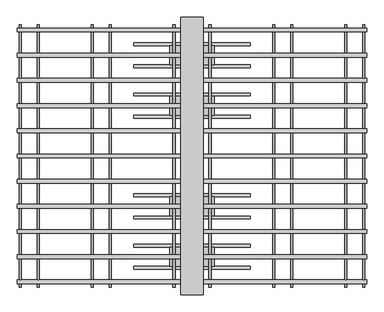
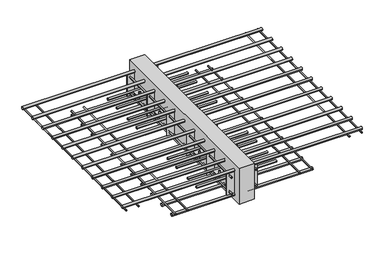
"""IFC4 building model written with IfcOpenShell, lengths in millimetres: proxy geometry, ACINOXplus_Typenreihe_K : KH+ S4."""

from ifc_helpers import new_model, si_unit, point, frame, frame_2d, origin, place, context, project, spatial, polyline, circle_curve, trimmed, segment, composite_curve, outline, extrude, source, transform, mapped, element, save
from ifc_brep_helpers import plane_surface, cylinder_surface, advanced_brep


def generic_models_9a2259de(model_context):
    return source(origin(), model_context, "Body", "SolidModel", [
        extrude(outline(composite_curve([segment(trimmed(circle_curve(frame_2d((-403.6363636, -104.0)), 5.0), [point((-408.6363636, -104.0))], [point((-398.6363636, -104.0))], False, "CARTESIAN"), True, "CONTINUOUS"), segment(trimmed(circle_curve(frame_2d((-403.6363636, -104.0)), 5.0), [point((-398.6363636, -104.0))], [point((-408.6363636, -104.0))], False, "CARTESIAN"), True, "CONTINUOUS")], self_intersect=False)), frame((-210.0, 0.0, 0.0), z_axis=(1.0, 0.0, 0.0), x_axis=(0.0, 1.0, 0.0)), (0.0, 0.0, 1.0), 420.0),
        extrude(outline(composite_curve([segment(trimmed(circle_curve(frame_2d((-323.6363636, -104.0)), 5.0), [point((-328.6363636, -104.0))], [point((-318.6363636, -104.0))], False, "CARTESIAN"), True, "CONTINUOUS"), segment(trimmed(circle_curve(frame_2d((-323.6363636, -104.0)), 5.0), [point((-318.6363636, -104.0))], [point((-328.6363636, -104.0))], False, "CARTESIAN"), True, "CONTINUOUS")], self_intersect=False)), frame((-210.0, 0.0, 0.0), z_axis=(1.0, 0.0, 0.0), x_axis=(0.0, 1.0, 0.0)), (0.0, 0.0, 1.0), 420.0),
        advanced_brep(
        [(-69.0, -363.6363636, -89.0), (-61.0, -363.6363636, -89.0), (61.0, -363.6363636, -89.0), (69.0, -363.6363636, -89.0), (-69.0, -363.6363636, -119.0), (-61.0, -363.6363636, -119.0), (61.0, -363.6363636, -119.0), (69.0, -363.6363636, -119.0), (-69.0, -363.6363636, -102.5), (-61.0, -363.6363636, -102.5), (-61.0, -363.6363636, -105.5), (-69.0, -363.6363636, -105.5), (61.0, -363.6363636, -102.5), (69.0, -363.6363636, -102.5), (69.0, -363.6363636, -105.5), (61.0, -363.6363636, -105.5), (80.0, -328.6363636, -102.5), (-80.0, -328.6363636, -102.5), (-80.0, -398.6363636, -102.5), (80.0, -398.6363636, -102.5), (80.0, -328.6363636, -105.5), (80.0, -398.6363636, -105.5), (-80.0, -398.6363636, -105.5), (-80.0, -328.6363636, -105.5)],
        [
            (0, 1, circle_curve(frame((-65.0, -363.6363636, -89.0), z_axis=(0.0, 0.0, 1.0), x_axis=(1.0, 0.0, 0.0)), 4.0)),
            (1, 0, circle_curve(frame((-65.0, -363.6363636, -89.0), z_axis=(0.0, 0.0, 1.0), x_axis=(1.0, 0.0, 0.0)), 4.0)),
            (2, 3, circle_curve(frame((65.0, -363.6363636, -89.0), z_axis=(0.0, 0.0, 1.0), x_axis=(1.0, 0.0, 0.0)), 4.0)),
            (3, 2, circle_curve(frame((65.0, -363.6363636, -89.0), z_axis=(0.0, 0.0, 1.0), x_axis=(1.0, 0.0, 0.0)), 4.0)),
            (4, 5, circle_curve(frame((-65.0, -363.6363636, -119.0), z_axis=(0.0, 0.0, -1.0), x_axis=(1.0, 0.0, 0.0)), 4.0)),
            (5, 4, circle_curve(frame((-65.0, -363.6363636, -119.0), z_axis=(0.0, 0.0, -1.0), x_axis=(1.0, 0.0, 0.0)), 4.0)),
            (6, 7, circle_curve(frame((65.0, -363.6363636, -119.0), z_axis=(0.0, 0.0, -1.0), x_axis=(1.0, 0.0, 0.0)), 4.0)),
            (7, 6, circle_curve(frame((65.0, -363.6363636, -119.0), z_axis=(0.0, 0.0, -1.0), x_axis=(1.0, 0.0, 0.0)), 4.0)),
            (0, 8),
            (8, 9, circle_curve(frame((-65.0, -363.6363636, -102.5), z_axis=(0.0, 0.0, 1.0), x_axis=(1.0, 0.0, 0.0)), 4.0)),
            (9, 1),
            (5, 10),
            (10, 11, circle_curve(frame((-65.0, -363.6363636, -105.5), z_axis=(0.0, 0.0, -1.0), x_axis=(1.0, 0.0, 0.0)), 4.0)),
            (11, 4),
            (9, 8, circle_curve(frame((-65.0, -363.6363636, -102.5), z_axis=(0.0, 0.0, 1.0), x_axis=(1.0, 0.0, 0.0)), 4.0)),
            (11, 10, circle_curve(frame((-65.0, -363.6363636, -105.5), z_axis=(0.0, 0.0, -1.0), x_axis=(1.0, 0.0, 0.0)), 4.0)),
            (2, 12),
            (12, 13, circle_curve(frame((65.0, -363.6363636, -102.5), z_axis=(0.0, 0.0, 1.0), x_axis=(1.0, 0.0, 0.0)), 4.0)),
            (13, 3),
            (7, 14),
            (14, 15, circle_curve(frame((65.0, -363.6363636, -105.5), z_axis=(0.0, 0.0, -1.0), x_axis=(1.0, 0.0, 0.0)), 4.0)),
            (15, 6),
            (13, 12, circle_curve(frame((65.0, -363.6363636, -102.5), z_axis=(0.0, 0.0, 1.0), x_axis=(1.0, 0.0, 0.0)), 4.0)),
            (15, 14, circle_curve(frame((65.0, -363.6363636, -105.5), z_axis=(0.0, 0.0, -1.0), x_axis=(1.0, 0.0, 0.0)), 4.0)),
            (16, 17),
            (17, 18),
            (18, 19),
            (19, 16),
            (20, 21),
            (21, 22),
            (22, 23),
            (23, 20),
            (16, 20),
            (23, 17),
            (22, 18),
            (21, 19),
        ],
        [
            plane_surface(frame((-61.0, -363.6363636, -89.0), z_axis=(0.0, 0.0, 1.0), x_axis=(0.0, 1.0, 0.0))),
            plane_surface(frame((-61.0, -363.6363636, -119.0), z_axis=(0.0, 0.0, -1.0), x_axis=(0.0, -1.0, 0.0))),
            cylinder_surface(frame((-65.0, -363.6363636, -119.0), z_axis=(0.0, 0.0, 1.0), x_axis=(1.0, 0.0, 0.0)), 4.0),
            cylinder_surface(frame((65.0, -363.6363636, -104.0), z_axis=(0.0, 0.0, 1.0), x_axis=(1.0, 0.0, 0.0)), 4.0),
            plane_surface(frame((-80.0, -328.6363636, -102.5), z_axis=(0.0, 0.0, 1.0), x_axis=(-1.0, 0.0, 0.0))),
            plane_surface(frame((-80.0, -328.6363636, -105.5), z_axis=(0.0, 0.0, -1.0), x_axis=(1.0, 0.0, 0.0))),
            plane_surface(frame((80.0, -328.6363636, -102.5), z_axis=(0.0, 1.0, 0.0), x_axis=(0.0, 0.0, -1.0))),
            plane_surface(frame((-80.0, -328.6363636, -102.5), z_axis=(-1.0, 0.0, 0.0), x_axis=(0.0, 0.0, -1.0))),
            plane_surface(frame((-80.0, -398.6363636, -102.5), z_axis=(0.0, -1.0, 0.0), x_axis=(0.0, 0.0, -1.0))),
            plane_surface(frame((80.0, -398.6363636, -102.5), z_axis=(1.0, 0.0, 0.0), x_axis=(0.0, 0.0, -1.0))),
        ],
        [
            (0, [[1, 2]]),
            (0, [[3, 4]]),
            (1, [[5, 6]]),
            (1, [[7, 8]]),
            (2, [[-1, 9, 10, 11]]),
            (2, [[-6, 12, 13, 14]]),
            (2, [[-2, -11, 15, -9]]),
            (2, [[-5, -14, 16, -12]]),
            (3, [[-3, 17, 18, 19]]),
            (3, [[-8, 20, 21, 22]]),
            (3, [[-4, -19, 23, -17]]),
            (3, [[-7, -22, 24, -20]]),
            (4, [[25, 26, 27, 28], [-10, -15], [-18, -23]]),
            (5, [[29, 30, 31, 32], [-13, -16], [-21, -24]]),
            (6, [[-25, 33, -32, 34]]),
            (7, [[-26, -34, -31, 35]]),
            (8, [[-27, -35, -30, 36]]),
            (9, [[-28, -36, -29, -33]]),
        ],
    ),
        extrude(outline(composite_curve([segment(trimmed(circle_curve(frame_2d((323.6363636, -104.0)), 5.0), [point((318.6363636, -104.0))], [point((328.6363636, -104.0))], False, "CARTESIAN"), True, "CONTINUOUS"), segment(trimmed(circle_curve(frame_2d((323.6363636, -104.0)), 5.0), [point((328.6363636, -104.0))], [point((318.6363636, -104.0))], False, "CARTESIAN"), True, "CONTINUOUS")], self_intersect=False)), frame((-210.0, 0.0, 0.0), z_axis=(1.0, 0.0, 0.0), x_axis=(0.0, 1.0, 0.0)), (0.0, 0.0, 1.0), 420.0),
        extrude(outline(composite_curve([segment(trimmed(circle_curve(frame_2d((403.6363636, -104.0)), 5.0), [point((398.6363636, -104.0))], [point((408.6363636, -104.0))], False, "CARTESIAN"), True, "CONTINUOUS"), segment(trimmed(circle_curve(frame_2d((403.6363636, -104.0)), 5.0), [point((408.6363636, -104.0))], [point((398.6363636, -104.0))], False, "CARTESIAN"), True, "CONTINUOUS")], self_intersect=False)), frame((-210.0, 0.0, 0.0), z_axis=(1.0, 0.0, 0.0), x_axis=(0.0, 1.0, 0.0)), (0.0, 0.0, 1.0), 420.0),
        advanced_brep(
        [(-69.0, 363.6363636, -89.0), (-61.0, 363.6363636, -89.0), (61.0, 363.6363636, -89.0), (69.0, 363.6363636, -89.0), (-69.0, 363.6363636, -119.0), (-61.0, 363.6363636, -119.0), (61.0, 363.6363636, -119.0), (69.0, 363.6363636, -119.0), (-69.0, 363.6363636, -102.5), (-61.0, 363.6363636, -102.5), (-61.0, 363.6363636, -105.5), (-69.0, 363.6363636, -105.5), (61.0, 363.6363636, -102.5), (69.0, 363.6363636, -102.5), (69.0, 363.6363636, -105.5), (61.0, 363.6363636, -105.5), (80.0, 398.6363636, -102.5), (-80.0, 398.6363636, -102.5), (-80.0, 328.6363636, -102.5), (80.0, 328.6363636, -102.5), (80.0, 398.6363636, -105.5), (80.0, 328.6363636, -105.5), (-80.0, 328.6363636, -105.5), (-80.0, 398.6363636, -105.5)],
        [
            (0, 1, circle_curve(frame((-65.0, 363.6363636, -89.0), z_axis=(0.0, 0.0, 1.0), x_axis=(1.0, 0.0, 0.0)), 4.0)),
            (1, 0, circle_curve(frame((-65.0, 363.6363636, -89.0), z_axis=(0.0, 0.0, 1.0), x_axis=(1.0, 0.0, 0.0)), 4.0)),
            (2, 3, circle_curve(frame((65.0, 363.6363636, -89.0), z_axis=(0.0, 0.0, 1.0), x_axis=(1.0, 0.0, 0.0)), 4.0)),
            (3, 2, circle_curve(frame((65.0, 363.6363636, -89.0), z_axis=(0.0, 0.0, 1.0), x_axis=(1.0, 0.0, 0.0)), 4.0)),
            (4, 5, circle_curve(frame((-65.0, 363.6363636, -119.0), z_axis=(0.0, 0.0, -1.0), x_axis=(1.0, 0.0, 0.0)), 4.0)),
            (5, 4, circle_curve(frame((-65.0, 363.6363636, -119.0), z_axis=(0.0, 0.0, -1.0), x_axis=(1.0, 0.0, 0.0)), 4.0)),
            (6, 7, circle_curve(frame((65.0, 363.6363636, -119.0), z_axis=(0.0, 0.0, -1.0), x_axis=(1.0, 0.0, 0.0)), 4.0)),
            (7, 6, circle_curve(frame((65.0, 363.6363636, -119.0), z_axis=(0.0, 0.0, -1.0), x_axis=(1.0, 0.0, 0.0)), 4.0)),
            (0, 8),
            (8, 9, circle_curve(frame((-65.0, 363.6363636, -102.5), z_axis=(0.0, 0.0, 1.0), x_axis=(1.0, 0.0, 0.0)), 4.0)),
            (9, 1),
            (5, 10),
            (10, 11, circle_curve(frame((-65.0, 363.6363636, -105.5), z_axis=(0.0, 0.0, -1.0), x_axis=(1.0, 0.0, 0.0)), 4.0)),
            (11, 4),
            (9, 8, circle_curve(frame((-65.0, 363.6363636, -102.5), z_axis=(0.0, 0.0, 1.0), x_axis=(1.0, 0.0, 0.0)), 4.0)),
            (11, 10, circle_curve(frame((-65.0, 363.6363636, -105.5), z_axis=(0.0, 0.0, -1.0), x_axis=(1.0, 0.0, 0.0)), 4.0)),
            (2, 12),
            (12, 13, circle_curve(frame((65.0, 363.6363636, -102.5), z_axis=(0.0, 0.0, 1.0), x_axis=(1.0, 0.0, 0.0)), 4.0)),
            (13, 3),
            (7, 14),
            (14, 15, circle_curve(frame((65.0, 363.6363636, -105.5), z_axis=(0.0, 0.0, -1.0), x_axis=(1.0, 0.0, 0.0)), 4.0)),
            (15, 6),
            (13, 12, circle_curve(frame((65.0, 363.6363636, -102.5), z_axis=(0.0, 0.0, 1.0), x_axis=(1.0, 0.0, 0.0)), 4.0)),
            (15, 14, circle_curve(frame((65.0, 363.6363636, -105.5), z_axis=(0.0, 0.0, -1.0), x_axis=(1.0, 0.0, 0.0)), 4.0)),
            (16, 17),
            (17, 18),
            (18, 19),
            (19, 16),
            (20, 21),
            (21, 22),
            (22, 23),
            (23, 20),
            (16, 20),
            (23, 17),
            (22, 18),
            (21, 19),
        ],
        [
            plane_surface(frame((-61.0, 363.6363636, -89.0), z_axis=(0.0, 0.0, 1.0), x_axis=(0.0, 1.0, 0.0))),
            plane_surface(frame((-61.0, 363.6363636, -119.0), z_axis=(0.0, 0.0, -1.0), x_axis=(0.0, -1.0, 0.0))),
            cylinder_surface(frame((-65.0, 363.6363636, -119.0), z_axis=(0.0, 0.0, 1.0), x_axis=(1.0, 0.0, 0.0)), 4.0),
            cylinder_surface(frame((65.0, 363.6363636, -104.0), z_axis=(0.0, 0.0, 1.0), x_axis=(1.0, 0.0, 0.0)), 4.0),
            plane_surface(frame((-80.0, 398.6363636, -102.5), z_axis=(0.0, 0.0, 1.0), x_axis=(-1.0, 0.0, 0.0))),
            plane_surface(frame((-80.0, 398.6363636, -105.5), z_axis=(0.0, 0.0, -1.0), x_axis=(1.0, 0.0, 0.0))),
            plane_surface(frame((80.0, 398.6363636, -102.5), z_axis=(0.0, 1.0, 0.0), x_axis=(0.0, 0.0, -1.0))),
            plane_surface(frame((-80.0, 398.6363636, -102.5), z_axis=(-1.0, 0.0, 0.0), x_axis=(0.0, 0.0, -1.0))),
            plane_surface(frame((-80.0, 328.6363636, -102.5), z_axis=(0.0, -1.0, 0.0), x_axis=(0.0, 0.0, -1.0))),
            plane_surface(frame((80.0, 328.6363636, -102.5), z_axis=(1.0, 0.0, 0.0), x_axis=(0.0, 0.0, -1.0))),
        ],
        [
            (0, [[1, 2]]),
            (0, [[3, 4]]),
            (1, [[5, 6]]),
            (1, [[7, 8]]),
            (2, [[-1, 9, 10, 11]]),
            (2, [[-6, 12, 13, 14]]),
            (2, [[-2, -11, 15, -9]]),
            (2, [[-5, -14, 16, -12]]),
            (3, [[-3, 17, 18, 19]]),
            (3, [[-8, 20, 21, 22]]),
            (3, [[-4, -19, 23, -17]]),
            (3, [[-7, -22, 24, -20]]),
            (4, [[25, 26, 27, 28], [-10, -15], [-18, -23]]),
            (5, [[29, 30, 31, 32], [-13, -16], [-21, -24]]),
            (6, [[-25, 33, -32, 34]]),
            (7, [[-26, -34, -31, 35]]),
            (8, [[-27, -35, -30, 36]]),
            (9, [[-28, -36, -29, -33]]),
        ],
    ),
        extrude(outline(composite_curve([segment(trimmed(circle_curve(frame_2d((-221.8181818, -104.0)), 5.0), [point((-226.8181818, -104.0))], [point((-216.8181818, -104.0))], False, "CARTESIAN"), True, "CONTINUOUS"), segment(trimmed(circle_curve(frame_2d((-221.8181818, -104.0)), 5.0), [point((-216.8181818, -104.0))], [point((-226.8181818, -104.0))], False, "CARTESIAN"), True, "CONTINUOUS")], self_intersect=False)), frame((-210.0, 0.0, 0.0), z_axis=(1.0, 0.0, 0.0), x_axis=(0.0, 1.0, 0.0)), (0.0, 0.0, 1.0), 420.0),
        extrude(outline(composite_curve([segment(trimmed(circle_curve(frame_2d((-141.8181818, -104.0)), 5.0), [point((-146.8181818, -104.0))], [point((-136.8181818, -104.0))], False, "CARTESIAN"), True, "CONTINUOUS"), segment(trimmed(circle_curve(frame_2d((-141.8181818, -104.0)), 5.0), [point((-136.8181818, -104.0))], [point((-146.8181818, -104.0))], False, "CARTESIAN"), True, "CONTINUOUS")], self_intersect=False)), frame((-210.0, 0.0, 0.0), z_axis=(1.0, 0.0, 0.0), x_axis=(0.0, 1.0, 0.0)), (0.0, 0.0, 1.0), 420.0),
        advanced_brep(
        [(-69.0, -181.8181818, -89.0), (-61.0, -181.8181818, -89.0), (61.0, -181.8181818, -89.0), (69.0, -181.8181818, -89.0), (-69.0, -181.8181818, -119.0), (-61.0, -181.8181818, -119.0), (61.0, -181.8181818, -119.0), (69.0, -181.8181818, -119.0), (-69.0, -181.8181818, -102.5), (-61.0, -181.8181818, -102.5), (-61.0, -181.8181818, -105.5), (-69.0, -181.8181818, -105.5), (61.0, -181.8181818, -102.5), (69.0, -181.8181818, -102.5), (69.0, -181.8181818, -105.5), (61.0, -181.8181818, -105.5), (80.0, -146.8181818, -102.5), (-80.0, -146.8181818, -102.5), (-80.0, -216.8181818, -102.5), (80.0, -216.8181818, -102.5), (80.0, -146.8181818, -105.5), (80.0, -216.8181818, -105.5), (-80.0, -216.8181818, -105.5), (-80.0, -146.8181818, -105.5)],
        [
            (0, 1, circle_curve(frame((-65.0, -181.8181818, -89.0), z_axis=(0.0, 0.0, 1.0), x_axis=(1.0, 0.0, 0.0)), 4.0)),
            (1, 0, circle_curve(frame((-65.0, -181.8181818, -89.0), z_axis=(0.0, 0.0, 1.0), x_axis=(1.0, 0.0, 0.0)), 4.0)),
            (2, 3, circle_curve(frame((65.0, -181.8181818, -89.0), z_axis=(0.0, 0.0, 1.0), x_axis=(1.0, 0.0, 0.0)), 4.0)),
            (3, 2, circle_curve(frame((65.0, -181.8181818, -89.0), z_axis=(0.0, 0.0, 1.0), x_axis=(1.0, 0.0, 0.0)), 4.0)),
            (4, 5, circle_curve(frame((-65.0, -181.8181818, -119.0), z_axis=(0.0, 0.0, -1.0), x_axis=(1.0, 0.0, 0.0)), 4.0)),
            (5, 4, circle_curve(frame((-65.0, -181.8181818, -119.0), z_axis=(0.0, 0.0, -1.0), x_axis=(1.0, 0.0, 0.0)), 4.0)),
            (6, 7, circle_curve(frame((65.0, -181.8181818, -119.0), z_axis=(0.0, 0.0, -1.0), x_axis=(1.0, 0.0, 0.0)), 4.0)),
            (7, 6, circle_curve(frame((65.0, -181.8181818, -119.0), z_axis=(0.0, 0.0, -1.0), x_axis=(1.0, 0.0, 0.0)), 4.0)),
            (0, 8),
            (8, 9, circle_curve(frame((-65.0, -181.8181818, -102.5), z_axis=(0.0, 0.0, 1.0), x_axis=(1.0, 0.0, 0.0)), 4.0)),
            (9, 1),
            (5, 10),
            (10, 11, circle_curve(frame((-65.0, -181.8181818, -105.5), z_axis=(0.0, 0.0, -1.0), x_axis=(1.0, 0.0, 0.0)), 4.0)),
            (11, 4),
            (9, 8, circle_curve(frame((-65.0, -181.8181818, -102.5), z_axis=(0.0, 0.0, 1.0), x_axis=(1.0, 0.0, 0.0)), 4.0)),
            (11, 10, circle_curve(frame((-65.0, -181.8181818, -105.5), z_axis=(0.0, 0.0, -1.0), x_axis=(1.0, 0.0, 0.0)), 4.0)),
            (2, 12),
            (12, 13, circle_curve(frame((65.0, -181.8181818, -102.5), z_axis=(0.0, 0.0, 1.0), x_axis=(1.0, 0.0, 0.0)), 4.0)),
            (13, 3),
            (7, 14),
            (14, 15, circle_curve(frame((65.0, -181.8181818, -105.5), z_axis=(0.0, 0.0, -1.0), x_axis=(1.0, 0.0, 0.0)), 4.0)),
            (15, 6),
            (13, 12, circle_curve(frame((65.0, -181.8181818, -102.5), z_axis=(0.0, 0.0, 1.0), x_axis=(1.0, 0.0, 0.0)), 4.0)),
            (15, 14, circle_curve(frame((65.0, -181.8181818, -105.5), z_axis=(0.0, 0.0, -1.0), x_axis=(1.0, 0.0, 0.0)), 4.0)),
            (16, 17),
            (17, 18),
            (18, 19),
            (19, 16),
            (20, 21),
            (21, 22),
            (22, 23),
            (23, 20),
            (16, 20),
            (23, 17),
            (22, 18),
            (21, 19),
        ],
        [
            plane_surface(frame((-61.0, -181.8181818, -89.0), z_axis=(0.0, 0.0, 1.0), x_axis=(0.0, 1.0, 0.0))),
            plane_surface(frame((-61.0, -181.8181818, -119.0), z_axis=(0.0, 0.0, -1.0), x_axis=(0.0, -1.0, 0.0))),
            cylinder_surface(frame((-65.0, -181.8181818, -119.0), z_axis=(0.0, 0.0, 1.0), x_axis=(1.0, 0.0, 0.0)), 4.0),
            cylinder_surface(frame((65.0, -181.8181818, -104.0), z_axis=(0.0, 0.0, 1.0), x_axis=(1.0, 0.0, 0.0)), 4.0),
            plane_surface(frame((-80.0, -146.8181818, -102.5), z_axis=(0.0, 0.0, 1.0), x_axis=(-1.0, 0.0, 0.0))),
            plane_surface(frame((-80.0, -146.8181818, -105.5), z_axis=(0.0, 0.0, -1.0), x_axis=(1.0, 0.0, 0.0))),
            plane_surface(frame((80.0, -146.8181818, -102.5), z_axis=(0.0, 1.0, 0.0), x_axis=(0.0, 0.0, -1.0))),
            plane_surface(frame((-80.0, -146.8181818, -102.5), z_axis=(-1.0, 0.0, 0.0), x_axis=(0.0, 0.0, -1.0))),
            plane_surface(frame((-80.0, -216.8181818, -102.5), z_axis=(0.0, -1.0, 0.0), x_axis=(0.0, 0.0, -1.0))),
            plane_surface(frame((80.0, -216.8181818, -102.5), z_axis=(1.0, 0.0, 0.0), x_axis=(0.0, 0.0, -1.0))),
        ],
        [
            (0, [[1, 2]]),
            (0, [[3, 4]]),
            (1, [[5, 6]]),
            (1, [[7, 8]]),
            (2, [[-1, 9, 10, 11]]),
            (2, [[-6, 12, 13, 14]]),
            (2, [[-2, -11, 15, -9]]),
            (2, [[-5, -14, 16, -12]]),
            (3, [[-3, 17, 18, 19]]),
            (3, [[-8, 20, 21, 22]]),
            (3, [[-4, -19, 23, -17]]),
            (3, [[-7, -22, 24, -20]]),
            (4, [[25, 26, 27, 28], [-10, -15], [-18, -23]]),
            (5, [[29, 30, 31, 32], [-13, -16], [-21, -24]]),
            (6, [[-25, 33, -32, 34]]),
            (7, [[-26, -34, -31, 35]]),
            (8, [[-27, -35, -30, 36]]),
            (9, [[-28, -36, -29, -33]]),
        ],
    ),
        extrude(outline(composite_curve([segment(trimmed(circle_curve(frame_2d((141.8181818, -104.0)), 5.0), [point((136.8181818, -104.0))], [point((146.8181818, -104.0))], False, "CARTESIAN"), True, "CONTINUOUS"), segment(trimmed(circle_curve(frame_2d((141.8181818, -104.0)), 5.0), [point((146.8181818, -104.0))], [point((136.8181818, -104.0))], False, "CARTESIAN"), True, "CONTINUOUS")], self_intersect=False)), frame((-210.0, 0.0, 0.0), z_axis=(1.0, 0.0, 0.0), x_axis=(0.0, 1.0, 0.0)), (0.0, 0.0, 1.0), 420.0),
        extrude(outline(composite_curve([segment(trimmed(circle_curve(frame_2d((221.8181818, -104.0)), 5.0), [point((216.8181818, -104.0))], [point((226.8181818, -104.0))], False, "CARTESIAN"), True, "CONTINUOUS"), segment(trimmed(circle_curve(frame_2d((221.8181818, -104.0)), 5.0), [point((226.8181818, -104.0))], [point((216.8181818, -104.0))], False, "CARTESIAN"), True, "CONTINUOUS")], self_intersect=False)), frame((-210.0, 0.0, 0.0), z_axis=(1.0, 0.0, 0.0), x_axis=(0.0, 1.0, 0.0)), (0.0, 0.0, 1.0), 420.0),
        advanced_brep(
        [(-69.0, 181.8181818, -89.0), (-61.0, 181.8181818, -89.0), (61.0, 181.8181818, -89.0), (69.0, 181.8181818, -89.0), (-69.0, 181.8181818, -119.0), (-61.0, 181.8181818, -119.0), (61.0, 181.8181818, -119.0), (69.0, 181.8181818, -119.0), (-69.0, 181.8181818, -102.5), (-61.0, 181.8181818, -102.5), (-61.0, 181.8181818, -105.5), (-69.0, 181.8181818, -105.5), (61.0, 181.8181818, -102.5), (69.0, 181.8181818, -102.5), (69.0, 181.8181818, -105.5), (61.0, 181.8181818, -105.5), (80.0, 216.8181818, -102.5), (-80.0, 216.8181818, -102.5), (-80.0, 146.8181818, -102.5), (80.0, 146.8181818, -102.5), (80.0, 216.8181818, -105.5), (80.0, 146.8181818, -105.5), (-80.0, 146.8181818, -105.5), (-80.0, 216.8181818, -105.5)],
        [
            (0, 1, circle_curve(frame((-65.0, 181.8181818, -89.0), z_axis=(0.0, 0.0, 1.0), x_axis=(1.0, 0.0, 0.0)), 4.0)),
            (1, 0, circle_curve(frame((-65.0, 181.8181818, -89.0), z_axis=(0.0, 0.0, 1.0), x_axis=(1.0, 0.0, 0.0)), 4.0)),
            (2, 3, circle_curve(frame((65.0, 181.8181818, -89.0), z_axis=(0.0, 0.0, 1.0), x_axis=(1.0, 0.0, 0.0)), 4.0)),
            (3, 2, circle_curve(frame((65.0, 181.8181818, -89.0), z_axis=(0.0, 0.0, 1.0), x_axis=(1.0, 0.0, 0.0)), 4.0)),
            (4, 5, circle_curve(frame((-65.0, 181.8181818, -119.0), z_axis=(0.0, 0.0, -1.0), x_axis=(1.0, 0.0, 0.0)), 4.0)),
            (5, 4, circle_curve(frame((-65.0, 181.8181818, -119.0), z_axis=(0.0, 0.0, -1.0), x_axis=(1.0, 0.0, 0.0)), 4.0)),
            (6, 7, circle_curve(frame((65.0, 181.8181818, -119.0), z_axis=(0.0, 0.0, -1.0), x_axis=(1.0, 0.0, 0.0)), 4.0)),
            (7, 6, circle_curve(frame((65.0, 181.8181818, -119.0), z_axis=(0.0, 0.0, -1.0), x_axis=(1.0, 0.0, 0.0)), 4.0)),
            (0, 8),
            (8, 9, circle_curve(frame((-65.0, 181.8181818, -102.5), z_axis=(0.0, 0.0, 1.0), x_axis=(1.0, 0.0, 0.0)), 4.0)),
            (9, 1),
            (5, 10),
            (10, 11, circle_curve(frame((-65.0, 181.8181818, -105.5), z_axis=(0.0, 0.0, -1.0), x_axis=(1.0, 0.0, 0.0)), 4.0)),
            (11, 4),
            (9, 8, circle_curve(frame((-65.0, 181.8181818, -102.5), z_axis=(0.0, 0.0, 1.0), x_axis=(1.0, 0.0, 0.0)), 4.0)),
            (11, 10, circle_curve(frame((-65.0, 181.8181818, -105.5), z_axis=(0.0, 0.0, -1.0), x_axis=(1.0, 0.0, 0.0)), 4.0)),
            (2, 12),
            (12, 13, circle_curve(frame((65.0, 181.8181818, -102.5), z_axis=(0.0, 0.0, 1.0), x_axis=(1.0, 0.0, 0.0)), 4.0)),
            (13, 3),
            (7, 14),
            (14, 15, circle_curve(frame((65.0, 181.8181818, -105.5), z_axis=(0.0, 0.0, -1.0), x_axis=(1.0, 0.0, 0.0)), 4.0)),
            (15, 6),
            (13, 12, circle_curve(frame((65.0, 181.8181818, -102.5), z_axis=(0.0, 0.0, 1.0), x_axis=(1.0, 0.0, 0.0)), 4.0)),
            (15, 14, circle_curve(frame((65.0, 181.8181818, -105.5), z_axis=(0.0, 0.0, -1.0), x_axis=(1.0, 0.0, 0.0)), 4.0)),
            (16, 17),
            (17, 18),
            (18, 19),
            (19, 16),
            (20, 21),
            (21, 22),
            (22, 23),
            (23, 20),
            (16, 20),
            (23, 17),
            (22, 18),
            (21, 19),
        ],
        [
            plane_surface(frame((-61.0, 181.8181818, -89.0), z_axis=(0.0, 0.0, 1.0), x_axis=(0.0, 1.0, 0.0))),
            plane_surface(frame((-61.0, 181.8181818, -119.0), z_axis=(0.0, 0.0, -1.0), x_axis=(0.0, -1.0, 0.0))),
            cylinder_surface(frame((-65.0, 181.8181818, -119.0), z_axis=(0.0, 0.0, 1.0), x_axis=(1.0, 0.0, 0.0)), 4.0),
            cylinder_surface(frame((65.0, 181.8181818, -104.0), z_axis=(0.0, 0.0, 1.0), x_axis=(1.0, 0.0, 0.0)), 4.0),
            plane_surface(frame((-80.0, 216.8181818, -102.5), z_axis=(0.0, 0.0, 1.0), x_axis=(-1.0, 0.0, 0.0))),
            plane_surface(frame((-80.0, 216.8181818, -105.5), z_axis=(0.0, 0.0, -1.0), x_axis=(1.0, 0.0, 0.0))),
            plane_surface(frame((80.0, 216.8181818, -102.5), z_axis=(0.0, 1.0, 0.0), x_axis=(0.0, 0.0, -1.0))),
            plane_surface(frame((-80.0, 216.8181818, -102.5), z_axis=(-1.0, 0.0, 0.0), x_axis=(0.0, 0.0, -1.0))),
            plane_surface(frame((-80.0, 146.8181818, -102.5), z_axis=(0.0, -1.0, 0.0), x_axis=(0.0, 0.0, -1.0))),
            plane_surface(frame((80.0, 146.8181818, -102.5), z_axis=(1.0, 0.0, 0.0), x_axis=(0.0, 0.0, -1.0))),
        ],
        [
            (0, [[1, 2]]),
            (0, [[3, 4]]),
            (1, [[5, 6]]),
            (1, [[7, 8]]),
            (2, [[-1, 9, 10, 11]]),
            (2, [[-6, 12, 13, 14]]),
            (2, [[-2, -11, 15, -9]]),
            (2, [[-5, -14, 16, -12]]),
            (3, [[-3, 17, 18, 19]]),
            (3, [[-8, 20, 21, 22]]),
            (3, [[-4, -19, 23, -17]]),
            (3, [[-7, -22, 24, -20]]),
            (4, [[25, 26, 27, 28], [-10, -15], [-18, -23]]),
            (5, [[29, 30, 31, 32], [-13, -16], [-21, -24]]),
            (6, [[-25, 33, -32, 34]]),
            (7, [[-26, -34, -31, 35]]),
            (8, [[-27, -35, -30, 36]]),
            (9, [[-28, -36, -29, -33]]),
        ],
    ),
        extrude(outline(polyline([(40.0, 500.0), (40.0, -500.0), (-40.0, -500.0), (-40.0, 500.0), (40.0, 500.0)])), frame((0.0, 0.0, -200.0), z_axis=(0.0, 0.0, 1.0), x_axis=(1.0, 0.0, 0.0)), (0.0, 0.0, 1.0), 200.0),
        extrude(outline(polyline([(80.0, -271.2272727), (80.0, -274.2272727), (-80.0, -274.2272727), (-80.0, -271.2272727), (80.0, -271.2272727)])), frame((0.0, 0.0, -164.0), z_axis=(0.0, 0.0, 1.0), x_axis=(1.0, 0.0, 0.0)), (0.0, 0.0, 1.0), 120.0),
        extrude(outline(polyline([(80.0, -89.4090909), (80.0, -92.4090909), (-80.0, -92.4090909), (-80.0, -89.4090909), (80.0, -89.4090909)])), frame((0.0, 0.0, -164.0), z_axis=(0.0, 0.0, 1.0), x_axis=(1.0, 0.0, 0.0)), (0.0, 0.0, 1.0), 120.0),
        extrude(outline(polyline([(80.0, 92.4090909), (80.0, 89.4090909), (-80.0, 89.4090909), (-80.0, 92.4090909), (80.0, 92.4090909)])), frame((0.0, 0.0, -164.0), z_axis=(0.0, 0.0, 1.0), x_axis=(1.0, 0.0, 0.0)), (0.0, 0.0, 1.0), 120.0),
        extrude(outline(polyline([(80.0, 274.2272727), (80.0, 271.2272727), (-80.0, 271.2272727), (-80.0, 274.2272727), (80.0, 274.2272727)])), frame((0.0, 0.0, -164.0), z_axis=(0.0, 0.0, 1.0), x_axis=(1.0, 0.0, 0.0)), (0.0, 0.0, 1.0), 120.0),
        extrude(outline(polyline([(80.0, -453.0454545), (80.0, -456.0454545), (-80.0, -456.0454545), (-80.0, -453.0454545), (80.0, -453.0454545)])), frame((0.0, 0.0, -164.0), z_axis=(0.0, 0.0, 1.0), x_axis=(1.0, 0.0, 0.0)), (0.0, 0.0, 1.0), 120.0),
        extrude(outline(polyline([(80.0, 456.0454545), (80.0, 453.0454545), (-80.0, 453.0454545), (-80.0, 456.0454545), (80.0, 456.0454545)])), frame((0.0, 0.0, -164.0), z_axis=(0.0, 0.0, 1.0), x_axis=(1.0, 0.0, 0.0)), (0.0, 0.0, 1.0), 120.0),
        extrude(outline(composite_curve([segment(trimmed(circle_curve(frame_2d((-149.0, -65.0)), 4.0), [point((-149.0, -61.0))], [point((-149.0, -69.0))], False, "CARTESIAN"), True, "CONTINUOUS"), segment(trimmed(circle_curve(frame_2d((-149.0, -65.0)), 4.0), [point((-149.0, -69.0))], [point((-149.0, -61.0))], False, "CARTESIAN"), True, "CONTINUOUS")], self_intersect=False)), frame((0.0, -474.5454545, 0.0), z_axis=(0.0, 1.0, 0.0), x_axis=(0.0, 0.0, 1.0)), (0.0, 0.0, 1.0), 18.5),
        extrude(outline(composite_curve([segment(trimmed(circle_curve(frame_2d((-149.0, -65.0)), 4.0), [point((-149.0, -69.0))], [point((-149.0, -61.0))], False, "CARTESIAN"), True, "CONTINUOUS"), segment(trimmed(circle_curve(frame_2d((-149.0, -65.0)), 4.0), [point((-149.0, -61.0))], [point((-149.0, -69.0))], False, "CARTESIAN"), True, "CONTINUOUS")], self_intersect=False)), frame((0.0, -453.0454545, 0.0), z_axis=(0.0, 1.0, 0.0), x_axis=(0.0, 0.0, 1.0)), (0.0, 0.0, 1.0), 724.2727273),
        extrude(outline(composite_curve([segment(trimmed(circle_curve(frame_2d((-149.0, -65.0)), 4.0), [point((-149.0, -69.0))], [point((-149.0, -61.0))], False, "CARTESIAN"), True, "CONTINUOUS"), segment(trimmed(circle_curve(frame_2d((-149.0, -65.0)), 4.0), [point((-149.0, -61.0))], [point((-149.0, -69.0))], False, "CARTESIAN"), True, "CONTINUOUS")], self_intersect=False)), frame((0.0, 456.0454545, 0.0), z_axis=(0.0, 1.0, 0.0), x_axis=(0.0, 0.0, 1.0)), (0.0, 0.0, 1.0), 18.5),
        extrude(outline(composite_curve([segment(trimmed(circle_curve(frame_2d((-149.0, -65.0)), 4.0), [point((-149.0, -69.0))], [point((-149.0, -61.0))], False, "CARTESIAN"), True, "CONTINUOUS"), segment(trimmed(circle_curve(frame_2d((-149.0, -65.0)), 4.0), [point((-149.0, -61.0))], [point((-149.0, -69.0))], False, "CARTESIAN"), True, "CONTINUOUS")], self_intersect=False)), frame((0.0, 274.2272727, 0.0), z_axis=(0.0, 1.0, 0.0), x_axis=(0.0, 0.0, 1.0)), (0.0, 0.0, 1.0), 178.8181818),
        extrude(outline(composite_curve([segment(trimmed(circle_curve(frame_2d((-149.0, 65.0)), 4.0), [point((-149.0, 69.0))], [point((-149.0, 61.0))], False, "CARTESIAN"), True, "CONTINUOUS"), segment(trimmed(circle_curve(frame_2d((-149.0, 65.0)), 4.0), [point((-149.0, 61.0))], [point((-149.0, 69.0))], False, "CARTESIAN"), True, "CONTINUOUS")], self_intersect=False)), frame((0.0, -474.5454545, 0.0), z_axis=(0.0, 1.0, 0.0), x_axis=(0.0, 0.0, 1.0)), (0.0, 0.0, 1.0), 18.5),
        extrude(outline(composite_curve([segment(trimmed(circle_curve(frame_2d((-149.0, 65.0)), 4.0), [point((-149.0, 61.0))], [point((-149.0, 69.0))], False, "CARTESIAN"), True, "CONTINUOUS"), segment(trimmed(circle_curve(frame_2d((-149.0, 65.0)), 4.0), [point((-149.0, 69.0))], [point((-149.0, 61.0))], False, "CARTESIAN"), True, "CONTINUOUS")], self_intersect=False)), frame((0.0, -453.0454545, 0.0), z_axis=(0.0, 1.0, 0.0), x_axis=(0.0, 0.0, 1.0)), (0.0, 0.0, 1.0), 724.2727273),
        extrude(outline(composite_curve([segment(trimmed(circle_curve(frame_2d((-149.0, 65.0)), 4.0), [point((-149.0, 61.0))], [point((-149.0, 69.0))], False, "CARTESIAN"), True, "CONTINUOUS"), segment(trimmed(circle_curve(frame_2d((-149.0, 65.0)), 4.0), [point((-149.0, 69.0))], [point((-149.0, 61.0))], False, "CARTESIAN"), True, "CONTINUOUS")], self_intersect=False)), frame((0.0, 456.0454545, 0.0), z_axis=(0.0, 1.0, 0.0), x_axis=(0.0, 0.0, 1.0)), (0.0, 0.0, 1.0), 18.5),
        extrude(outline(composite_curve([segment(trimmed(circle_curve(frame_2d((-149.0, 65.0)), 4.0), [point((-149.0, 61.0))], [point((-149.0, 69.0))], False, "CARTESIAN"), True, "CONTINUOUS"), segment(trimmed(circle_curve(frame_2d((-149.0, 65.0)), 4.0), [point((-149.0, 69.0))], [point((-149.0, 61.0))], False, "CARTESIAN"), True, "CONTINUOUS")], self_intersect=False)), frame((0.0, 274.2272727, 0.0), z_axis=(0.0, 1.0, 0.0), x_axis=(0.0, 0.0, 1.0)), (0.0, 0.0, 1.0), 178.8181818),
        extrude(outline(composite_curve([segment(trimmed(circle_curve(frame_2d((-59.0, -65.0)), 4.0), [point((-59.0, -61.0))], [point((-59.0, -69.0))], False, "CARTESIAN"), True, "CONTINUOUS"), segment(trimmed(circle_curve(frame_2d((-59.0, -65.0)), 4.0), [point((-59.0, -69.0))], [point((-59.0, -61.0))], False, "CARTESIAN"), True, "CONTINUOUS")], self_intersect=False)), frame((0.0, -474.5454545, 0.0), z_axis=(0.0, 1.0, 0.0), x_axis=(0.0, 0.0, 1.0)), (0.0, 0.0, 1.0), 18.5),
        extrude(outline(composite_curve([segment(trimmed(circle_curve(frame_2d((-59.0, -65.0)), 4.0), [point((-59.0, -69.0))], [point((-59.0, -61.0))], False, "CARTESIAN"), True, "CONTINUOUS"), segment(trimmed(circle_curve(frame_2d((-59.0, -65.0)), 4.0), [point((-59.0, -61.0))], [point((-59.0, -69.0))], False, "CARTESIAN"), True, "CONTINUOUS")], self_intersect=False)), frame((0.0, -453.0454545, 0.0), z_axis=(0.0, 1.0, 0.0), x_axis=(0.0, 0.0, 1.0)), (0.0, 0.0, 1.0), 724.2727273),
        extrude(outline(composite_curve([segment(trimmed(circle_curve(frame_2d((-59.0, -65.0)), 4.0), [point((-59.0, -69.0))], [point((-59.0, -61.0))], False, "CARTESIAN"), True, "CONTINUOUS"), segment(trimmed(circle_curve(frame_2d((-59.0, -65.0)), 4.0), [point((-59.0, -61.0))], [point((-59.0, -69.0))], False, "CARTESIAN"), True, "CONTINUOUS")], self_intersect=False)), frame((0.0, 456.0454545, 0.0), z_axis=(0.0, 1.0, 0.0), x_axis=(0.0, 0.0, 1.0)), (0.0, 0.0, 1.0), 18.5),
        extrude(outline(composite_curve([segment(trimmed(circle_curve(frame_2d((-59.0, -65.0)), 4.0), [point((-59.0, -69.0))], [point((-59.0, -61.0))], False, "CARTESIAN"), True, "CONTINUOUS"), segment(trimmed(circle_curve(frame_2d((-59.0, -65.0)), 4.0), [point((-59.0, -61.0))], [point((-59.0, -69.0))], False, "CARTESIAN"), True, "CONTINUOUS")], self_intersect=False)), frame((0.0, 274.2272727, 0.0), z_axis=(0.0, 1.0, 0.0), x_axis=(0.0, 0.0, 1.0)), (0.0, 0.0, 1.0), 178.8181818),
        extrude(outline(composite_curve([segment(trimmed(circle_curve(frame_2d((-59.0, 65.0)), 4.0), [point((-59.0, 69.0))], [point((-59.0, 61.0))], False, "CARTESIAN"), True, "CONTINUOUS"), segment(trimmed(circle_curve(frame_2d((-59.0, 65.0)), 4.0), [point((-59.0, 61.0))], [point((-59.0, 69.0))], False, "CARTESIAN"), True, "CONTINUOUS")], self_intersect=False)), frame((0.0, -474.5454545, 0.0), z_axis=(0.0, 1.0, 0.0), x_axis=(0.0, 0.0, 1.0)), (0.0, 0.0, 1.0), 18.5),
        extrude(outline(composite_curve([segment(trimmed(circle_curve(frame_2d((-59.0, 65.0)), 4.0), [point((-59.0, 61.0))], [point((-59.0, 69.0))], False, "CARTESIAN"), True, "CONTINUOUS"), segment(trimmed(circle_curve(frame_2d((-59.0, 65.0)), 4.0), [point((-59.0, 69.0))], [point((-59.0, 61.0))], False, "CARTESIAN"), True, "CONTINUOUS")], self_intersect=False)), frame((0.0, -453.0454545, 0.0), z_axis=(0.0, 1.0, 0.0), x_axis=(0.0, 0.0, 1.0)), (0.0, 0.0, 1.0), 724.2727273),
        extrude(outline(composite_curve([segment(trimmed(circle_curve(frame_2d((-59.0, 65.0)), 4.0), [point((-59.0, 61.0))], [point((-59.0, 69.0))], False, "CARTESIAN"), True, "CONTINUOUS"), segment(trimmed(circle_curve(frame_2d((-59.0, 65.0)), 4.0), [point((-59.0, 69.0))], [point((-59.0, 61.0))], False, "CARTESIAN"), True, "CONTINUOUS")], self_intersect=False)), frame((0.0, 456.0454545, 0.0), z_axis=(0.0, 1.0, 0.0), x_axis=(0.0, 0.0, 1.0)), (0.0, 0.0, 1.0), 18.5),
        extrude(outline(composite_curve([segment(trimmed(circle_curve(frame_2d((-59.0, 65.0)), 4.0), [point((-59.0, 61.0))], [point((-59.0, 69.0))], False, "CARTESIAN"), True, "CONTINUOUS"), segment(trimmed(circle_curve(frame_2d((-59.0, 65.0)), 4.0), [point((-59.0, 69.0))], [point((-59.0, 61.0))], False, "CARTESIAN"), True, "CONTINUOUS")], self_intersect=False)), frame((0.0, 274.2272727, 0.0), z_axis=(0.0, 1.0, 0.0), x_axis=(0.0, 0.0, 1.0)), (0.0, 0.0, 1.0), 178.8181818),
        extrude(outline(composite_curve([segment(trimmed(circle_curve(frame_2d((272.7272727, -171.0)), 7.0), [point((265.7272727, -171.0))], [point((279.7272727, -171.0))], False, "CARTESIAN"), True, "CONTINUOUS"), segment(trimmed(circle_curve(frame_2d((272.7272727, -171.0)), 7.0), [point((279.7272727, -171.0))], [point((265.7272727, -171.0))], False, "CARTESIAN"), True, "CONTINUOUS")], self_intersect=False)), frame((-370.0, 0.0, 0.0), z_axis=(1.0, 0.0, 0.0), x_axis=(0.0, 1.0, 0.0)), (0.0, 0.0, 1.0), 740.0),
        extrude(outline(composite_curve([segment(trimmed(circle_curve(frame_2d((181.8181818, -171.0)), 7.0), [point((174.8181818, -171.0))], [point((188.8181818, -171.0))], False, "CARTESIAN"), True, "CONTINUOUS"), segment(trimmed(circle_curve(frame_2d((181.8181818, -171.0)), 7.0), [point((188.8181818, -171.0))], [point((174.8181818, -171.0))], False, "CARTESIAN"), True, "CONTINUOUS")], self_intersect=False)), frame((-370.0, 0.0, 0.0), z_axis=(1.0, 0.0, 0.0), x_axis=(0.0, 1.0, 0.0)), (0.0, 0.0, 1.0), 740.0),
        extrude(outline(composite_curve([segment(trimmed(circle_curve(frame_2d((90.9090909, -171.0)), 7.0), [point((83.9090909, -171.0))], [point((97.9090909, -171.0))], False, "CARTESIAN"), True, "CONTINUOUS"), segment(trimmed(circle_curve(frame_2d((90.9090909, -171.0)), 7.0), [point((97.9090909, -171.0))], [point((83.9090909, -171.0))], False, "CARTESIAN"), True, "CONTINUOUS")], self_intersect=False)), frame((-370.0, 0.0, 0.0), z_axis=(1.0, 0.0, 0.0), x_axis=(0.0, 1.0, 0.0)), (0.0, 0.0, 1.0), 740.0),
        extrude(outline(composite_curve([segment(trimmed(circle_curve(frame_2d((0.0, -171.0)), 7.0), [point((-7.0, -171.0))], [point((7.0, -171.0))], False, "CARTESIAN"), True, "CONTINUOUS"), segment(trimmed(circle_curve(frame_2d((0.0, -171.0)), 7.0), [point((7.0, -171.0))], [point((-7.0, -171.0))], False, "CARTESIAN"), True, "CONTINUOUS")], self_intersect=False)), frame((-370.0, 0.0, 0.0), z_axis=(1.0, 0.0, 0.0), x_axis=(0.0, 1.0, 0.0)), (0.0, 0.0, 1.0), 740.0),
        extrude(outline(composite_curve([segment(trimmed(circle_curve(frame_2d((-90.9090909, -171.0)), 7.0), [point((-97.9090909, -171.0))], [point((-83.9090909, -171.0))], False, "CARTESIAN"), True, "CONTINUOUS"), segment(trimmed(circle_curve(frame_2d((-90.9090909, -171.0)), 7.0), [point((-83.9090909, -171.0))], [point((-97.9090909, -171.0))], False, "CARTESIAN"), True, "CONTINUOUS")], self_intersect=False)), frame((-370.0, 0.0, 0.0), z_axis=(1.0, 0.0, 0.0), x_axis=(0.0, 1.0, 0.0)), (0.0, 0.0, 1.0), 740.0),
        extrude(outline(composite_curve([segment(trimmed(circle_curve(frame_2d((-181.8181818, -171.0)), 7.0), [point((-188.8181818, -171.0))], [point((-174.8181818, -171.0))], False, "CARTESIAN"), True, "CONTINUOUS"), segment(trimmed(circle_curve(frame_2d((-181.8181818, -171.0)), 7.0), [point((-174.8181818, -171.0))], [point((-188.8181818, -171.0))], False, "CARTESIAN"), True, "CONTINUOUS")], self_intersect=False)), frame((-370.0, 0.0, 0.0), z_axis=(1.0, 0.0, 0.0), x_axis=(0.0, 1.0, 0.0)), (0.0, 0.0, 1.0), 740.0),
        extrude(outline(composite_curve([segment(trimmed(circle_curve(frame_2d((-272.7272727, -171.0)), 7.0), [point((-279.7272727, -171.0))], [point((-265.7272727, -171.0))], False, "CARTESIAN"), True, "CONTINUOUS"), segment(trimmed(circle_curve(frame_2d((-272.7272727, -171.0)), 7.0), [point((-265.7272727, -171.0))], [point((-279.7272727, -171.0))], False, "CARTESIAN"), True, "CONTINUOUS")], self_intersect=False)), frame((-370.0, 0.0, 0.0), z_axis=(1.0, 0.0, 0.0), x_axis=(0.0, 1.0, 0.0)), (0.0, 0.0, 1.0), 740.0),
        extrude(outline(composite_curve([segment(trimmed(circle_curve(frame_2d((363.6363636, -171.0)), 7.0), [point((356.6363636, -171.0))], [point((370.6363636, -171.0))], False, "CARTESIAN"), True, "CONTINUOUS"), segment(trimmed(circle_curve(frame_2d((363.6363636, -171.0)), 7.0), [point((370.6363636, -171.0))], [point((356.6363636, -171.0))], False, "CARTESIAN"), True, "CONTINUOUS")], self_intersect=False)), frame((-370.0, 0.0, 0.0), z_axis=(1.0, 0.0, 0.0), x_axis=(0.0, 1.0, 0.0)), (0.0, 0.0, 1.0), 740.0),
        extrude(outline(composite_curve([segment(trimmed(circle_curve(frame_2d((454.5454545, -171.0)), 7.0), [point((447.5454545, -171.0))], [point((461.5454545, -171.0))], False, "CARTESIAN"), True, "CONTINUOUS"), segment(trimmed(circle_curve(frame_2d((454.5454545, -171.0)), 7.0), [point((461.5454545, -171.0))], [point((447.5454545, -171.0))], False, "CARTESIAN"), True, "CONTINUOUS")], self_intersect=False)), frame((-370.0, 0.0, 0.0), z_axis=(1.0, 0.0, 0.0), x_axis=(0.0, 1.0, 0.0)), (0.0, 0.0, 1.0), 740.0),
        extrude(outline(composite_curve([segment(trimmed(circle_curve(frame_2d((-363.6363636, -171.0)), 7.0), [point((-370.6363636, -171.0))], [point((-356.6363636, -171.0))], False, "CARTESIAN"), True, "CONTINUOUS"), segment(trimmed(circle_curve(frame_2d((-363.6363636, -171.0)), 7.0), [point((-356.6363636, -171.0))], [point((-370.6363636, -171.0))], False, "CARTESIAN"), True, "CONTINUOUS")], self_intersect=False)), frame((-370.0, 0.0, 0.0), z_axis=(1.0, 0.0, 0.0), x_axis=(0.0, 1.0, 0.0)), (0.0, 0.0, 1.0), 740.0),
        extrude(outline(composite_curve([segment(trimmed(circle_curve(frame_2d((-454.5454545, -171.0)), 7.0), [point((-461.5454545, -171.0))], [point((-447.5454545, -171.0))], False, "CARTESIAN"), True, "CONTINUOUS"), segment(trimmed(circle_curve(frame_2d((-454.5454545, -171.0)), 7.0), [point((-447.5454545, -171.0))], [point((-461.5454545, -171.0))], False, "CARTESIAN"), True, "CONTINUOUS")], self_intersect=False)), frame((-370.0, 0.0, 0.0), z_axis=(1.0, 0.0, 0.0), x_axis=(0.0, 1.0, 0.0)), (0.0, 0.0, 1.0), 740.0),
        extrude(outline(composite_curve([segment(trimmed(circle_curve(frame_2d((272.7272727, -37.0)), 7.0), [point((265.7272727, -37.0))], [point((279.7272727, -37.0))], False, "CARTESIAN"), True, "CONTINUOUS"), segment(trimmed(circle_curve(frame_2d((272.7272727, -37.0)), 7.0), [point((279.7272727, -37.0))], [point((265.7272727, -37.0))], False, "CARTESIAN"), True, "CONTINUOUS")], self_intersect=False)), frame((-630.0, 0.0, 0.0), z_axis=(1.0, 0.0, 0.0), x_axis=(0.0, 1.0, 0.0)), (0.0, 0.0, 1.0), 1260.0),
        extrude(outline(composite_curve([segment(trimmed(circle_curve(frame_2d((181.8181818, -37.0)), 7.0), [point((174.8181818, -37.0))], [point((188.8181818, -37.0))], False, "CARTESIAN"), True, "CONTINUOUS"), segment(trimmed(circle_curve(frame_2d((181.8181818, -37.0)), 7.0), [point((188.8181818, -37.0))], [point((174.8181818, -37.0))], False, "CARTESIAN"), True, "CONTINUOUS")], self_intersect=False)), frame((-630.0, 0.0, 0.0), z_axis=(1.0, 0.0, 0.0), x_axis=(0.0, 1.0, 0.0)), (0.0, 0.0, 1.0), 1260.0),
        extrude(outline(composite_curve([segment(trimmed(circle_curve(frame_2d((90.9090909, -37.0)), 7.0), [point((83.9090909, -37.0))], [point((97.9090909, -37.0))], False, "CARTESIAN"), True, "CONTINUOUS"), segment(trimmed(circle_curve(frame_2d((90.9090909, -37.0)), 7.0), [point((97.9090909, -37.0))], [point((83.9090909, -37.0))], False, "CARTESIAN"), True, "CONTINUOUS")], self_intersect=False)), frame((-630.0, 0.0, 0.0), z_axis=(1.0, 0.0, 0.0), x_axis=(0.0, 1.0, 0.0)), (0.0, 0.0, 1.0), 1260.0),
        extrude(outline(composite_curve([segment(trimmed(circle_curve(frame_2d((0.0, -37.0)), 7.0), [point((-7.0, -37.0))], [point((7.0, -37.0))], False, "CARTESIAN"), True, "CONTINUOUS"), segment(trimmed(circle_curve(frame_2d((0.0, -37.0)), 7.0), [point((7.0, -37.0))], [point((-7.0, -37.0))], False, "CARTESIAN"), True, "CONTINUOUS")], self_intersect=False)), frame((-630.0, 0.0, 0.0), z_axis=(1.0, 0.0, 0.0), x_axis=(0.0, 1.0, 0.0)), (0.0, 0.0, 1.0), 1260.0),
        extrude(outline(composite_curve([segment(trimmed(circle_curve(frame_2d((-90.9090909, -37.0)), 7.0), [point((-97.9090909, -37.0))], [point((-83.9090909, -37.0))], False, "CARTESIAN"), True, "CONTINUOUS"), segment(trimmed(circle_curve(frame_2d((-90.9090909, -37.0)), 7.0), [point((-83.9090909, -37.0))], [point((-97.9090909, -37.0))], False, "CARTESIAN"), True, "CONTINUOUS")], self_intersect=False)), frame((-630.0, 0.0, 0.0), z_axis=(1.0, 0.0, 0.0), x_axis=(0.0, 1.0, 0.0)), (0.0, 0.0, 1.0), 1260.0),
        extrude(outline(composite_curve([segment(trimmed(circle_curve(frame_2d((-181.8181818, -37.0)), 7.0), [point((-188.8181818, -37.0))], [point((-174.8181818, -37.0))], False, "CARTESIAN"), True, "CONTINUOUS"), segment(trimmed(circle_curve(frame_2d((-181.8181818, -37.0)), 7.0), [point((-174.8181818, -37.0))], [point((-188.8181818, -37.0))], False, "CARTESIAN"), True, "CONTINUOUS")], self_intersect=False)), frame((-630.0, 0.0, 0.0), z_axis=(1.0, 0.0, 0.0), x_axis=(0.0, 1.0, 0.0)), (0.0, 0.0, 1.0), 1260.0),
        extrude(outline(composite_curve([segment(trimmed(circle_curve(frame_2d((-272.7272727, -37.0)), 7.0), [point((-279.7272727, -37.0))], [point((-265.7272727, -37.0))], False, "CARTESIAN"), True, "CONTINUOUS"), segment(trimmed(circle_curve(frame_2d((-272.7272727, -37.0)), 7.0), [point((-265.7272727, -37.0))], [point((-279.7272727, -37.0))], False, "CARTESIAN"), True, "CONTINUOUS")], self_intersect=False)), frame((-630.0, 0.0, 0.0), z_axis=(1.0, 0.0, 0.0), x_axis=(0.0, 1.0, 0.0)), (0.0, 0.0, 1.0), 1260.0),
        extrude(outline(composite_curve([segment(trimmed(circle_curve(frame_2d((363.6363636, -37.0)), 7.0), [point((356.6363636, -37.0))], [point((370.6363636, -37.0))], False, "CARTESIAN"), True, "CONTINUOUS"), segment(trimmed(circle_curve(frame_2d((363.6363636, -37.0)), 7.0), [point((370.6363636, -37.0))], [point((356.6363636, -37.0))], False, "CARTESIAN"), True, "CONTINUOUS")], self_intersect=False)), frame((-630.0, 0.0, 0.0), z_axis=(1.0, 0.0, 0.0), x_axis=(0.0, 1.0, 0.0)), (0.0, 0.0, 1.0), 1260.0),
        extrude(outline(composite_curve([segment(trimmed(circle_curve(frame_2d((454.5454545, -37.0)), 7.0), [point((447.5454545, -37.0))], [point((461.5454545, -37.0))], False, "CARTESIAN"), True, "CONTINUOUS"), segment(trimmed(circle_curve(frame_2d((454.5454545, -37.0)), 7.0), [point((461.5454545, -37.0))], [point((447.5454545, -37.0))], False, "CARTESIAN"), True, "CONTINUOUS")], self_intersect=False)), frame((-630.0, 0.0, 0.0), z_axis=(1.0, 0.0, 0.0), x_axis=(0.0, 1.0, 0.0)), (0.0, 0.0, 1.0), 1260.0),
        extrude(outline(composite_curve([segment(trimmed(circle_curve(frame_2d((-363.6363636, -37.0)), 7.0), [point((-370.6363636, -37.0))], [point((-356.6363636, -37.0))], False, "CARTESIAN"), True, "CONTINUOUS"), segment(trimmed(circle_curve(frame_2d((-363.6363636, -37.0)), 7.0), [point((-356.6363636, -37.0))], [point((-370.6363636, -37.0))], False, "CARTESIAN"), True, "CONTINUOUS")], self_intersect=False)), frame((-630.0, 0.0, 0.0), z_axis=(1.0, 0.0, 0.0), x_axis=(0.0, 1.0, 0.0)), (0.0, 0.0, 1.0), 1260.0),
        extrude(outline(composite_curve([segment(trimmed(circle_curve(frame_2d((-454.5454545, -37.0)), 7.0), [point((-461.5454545, -37.0))], [point((-447.5454545, -37.0))], False, "CARTESIAN"), True, "CONTINUOUS"), segment(trimmed(circle_curve(frame_2d((-454.5454545, -37.0)), 7.0), [point((-447.5454545, -37.0))], [point((-461.5454545, -37.0))], False, "CARTESIAN"), True, "CONTINUOUS")], self_intersect=False)), frame((-630.0, 0.0, 0.0), z_axis=(1.0, 0.0, 0.0), x_axis=(0.0, 1.0, 0.0)), (0.0, 0.0, 1.0), 1260.0),
        extrude(outline(composite_curve([segment(trimmed(circle_curve(frame_2d((-161.0, -360.0)), 3.0), [point((-161.0, -357.0))], [point((-161.0, -363.0))], False, "CARTESIAN"), True, "CONTINUOUS"), segment(trimmed(circle_curve(frame_2d((-161.0, -360.0)), 3.0), [point((-161.0, -363.0))], [point((-161.0, -357.0))], False, "CARTESIAN"), True, "CONTINUOUS")], self_intersect=False)), frame((0.0, -474.5454545, 0.0), z_axis=(0.0, 1.0, 0.0), x_axis=(0.0, 0.0, 1.0)), (0.0, 0.0, 1.0), 949.0909091),
        extrude(outline(composite_curve([segment(trimmed(circle_curve(frame_2d((-161.0, -295.0)), 3.0), [point((-161.0, -292.0))], [point((-161.0, -298.0))], False, "CARTESIAN"), True, "CONTINUOUS"), segment(trimmed(circle_curve(frame_2d((-161.0, -295.0)), 3.0), [point((-161.0, -298.0))], [point((-161.0, -292.0))], False, "CARTESIAN"), True, "CONTINUOUS")], self_intersect=False)), frame((0.0, -474.5454545, 0.0), z_axis=(0.0, 1.0, 0.0), x_axis=(0.0, 0.0, 1.0)), (0.0, 0.0, 1.0), 949.0909091),
        extrude(outline(composite_curve([segment(trimmed(circle_curve(frame_2d((-161.0, 295.0)), 3.0), [point((-161.0, 298.0))], [point((-161.0, 292.0))], False, "CARTESIAN"), True, "CONTINUOUS"), segment(trimmed(circle_curve(frame_2d((-161.0, 295.0)), 3.0), [point((-161.0, 292.0))], [point((-161.0, 298.0))], False, "CARTESIAN"), True, "CONTINUOUS")], self_intersect=False)), frame((0.0, -474.5454545, 0.0), z_axis=(0.0, 1.0, 0.0), x_axis=(0.0, 0.0, 1.0)), (0.0, 0.0, 1.0), 949.0909091),
        extrude(outline(composite_curve([segment(trimmed(circle_curve(frame_2d((-161.0, 360.0)), 3.0), [point((-161.0, 363.0))], [point((-161.0, 357.0))], False, "CARTESIAN"), True, "CONTINUOUS"), segment(trimmed(circle_curve(frame_2d((-161.0, 360.0)), 3.0), [point((-161.0, 357.0))], [point((-161.0, 363.0))], False, "CARTESIAN"), True, "CONTINUOUS")], self_intersect=False)), frame((0.0, -474.5454545, 0.0), z_axis=(0.0, 1.0, 0.0), x_axis=(0.0, 0.0, 1.0)), (0.0, 0.0, 1.0), 949.0909091),
        extrude(outline(composite_curve([segment(trimmed(circle_curve(frame_2d((-47.0, 555.0)), 3.0), [point((-47.0, 558.0))], [point((-47.0, 552.0))], False, "CARTESIAN"), True, "CONTINUOUS"), segment(trimmed(circle_curve(frame_2d((-47.0, 555.0)), 3.0), [point((-47.0, 552.0))], [point((-47.0, 558.0))], False, "CARTESIAN"), True, "CONTINUOUS")], self_intersect=False)), frame((0.0, -474.5454545, 0.0), z_axis=(0.0, 1.0, 0.0), x_axis=(0.0, 0.0, 1.0)), (0.0, 0.0, 1.0), 949.0909091),
        extrude(outline(composite_curve([segment(trimmed(circle_curve(frame_2d((-47.0, 620.0)), 3.0), [point((-47.0, 623.0))], [point((-47.0, 617.0))], False, "CARTESIAN"), True, "CONTINUOUS"), segment(trimmed(circle_curve(frame_2d((-47.0, 620.0)), 3.0), [point((-47.0, 617.0))], [point((-47.0, 623.0))], False, "CARTESIAN"), True, "CONTINUOUS")], self_intersect=False)), frame((0.0, -474.5454545, 0.0), z_axis=(0.0, 1.0, 0.0), x_axis=(0.0, 0.0, 1.0)), (0.0, 0.0, 1.0), 949.0909091),
        extrude(outline(composite_curve([segment(trimmed(circle_curve(frame_2d((-47.0, -620.0)), 3.0), [point((-47.0, -617.0))], [point((-47.0, -623.0))], False, "CARTESIAN"), True, "CONTINUOUS"), segment(trimmed(circle_curve(frame_2d((-47.0, -620.0)), 3.0), [point((-47.0, -623.0))], [point((-47.0, -617.0))], False, "CARTESIAN"), True, "CONTINUOUS")], self_intersect=False)), frame((0.0, -474.5454545, 0.0), z_axis=(0.0, 1.0, 0.0), x_axis=(0.0, 0.0, 1.0)), (0.0, 0.0, 1.0), 949.0909091),
        extrude(outline(composite_curve([segment(trimmed(circle_curve(frame_2d((-47.0, -555.0)), 3.0), [point((-47.0, -552.0))], [point((-47.0, -558.0))], False, "CARTESIAN"), True, "CONTINUOUS"), segment(trimmed(circle_curve(frame_2d((-47.0, -555.0)), 3.0), [point((-47.0, -558.0))], [point((-47.0, -552.0))], False, "CARTESIAN"), True, "CONTINUOUS")], self_intersect=False)), frame((0.0, -474.5454545, 0.0), z_axis=(0.0, 1.0, 0.0), x_axis=(0.0, 0.0, 1.0)), (0.0, 0.0, 1.0), 949.0909091),
    ])


if __name__ == "__main__":
    model = new_model("IFC4")
    model_context = context("Model", 3, world=origin())
    ifc_project = project(units=[si_unit("LENGTHUNIT", "METRE", prefix="MILLI")], contexts=[model_context])
    site = spatial("IfcSite", under=ifc_project)
    building = spatial("IfcBuilding", under=site)
    placement = place(None, origin())
    generic_models_shape = generic_models_9a2259de(model_context)
    element("IfcBuildingElementProxy", 1, Name="ACINOXplus_Typenreihe_K : KH+ S4", ObjectType="ACINOXplus_Typenreihe_K : KH+ S4", at=placement, inside=building, context=model_context, shape_type="MappedRepresentation", body=[
        mapped(generic_models_shape, transform((0.0, 0.0, 0.0), x_axis=(1.0, 0.0, 0.0), y_axis=(0.0, 1.0, 0.0), z_axis=(0.0, 0.0, 1.0))),
    ])
    save(model, "model.ifc")
